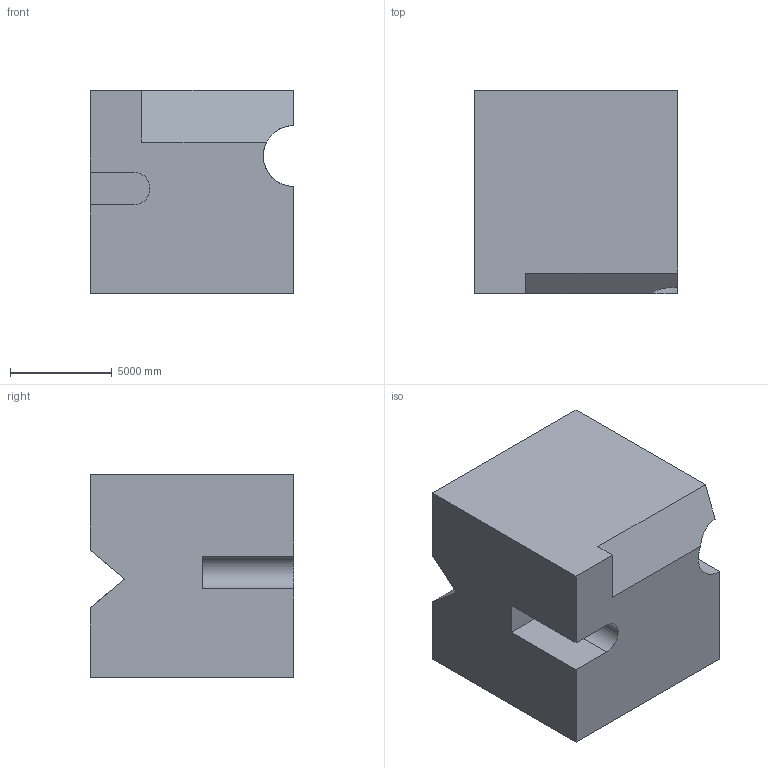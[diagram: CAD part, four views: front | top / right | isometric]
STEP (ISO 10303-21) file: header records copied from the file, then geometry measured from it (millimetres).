
FILE_DESCRIPTION (( 'STEP AP203' ), '1' );
FILE_NAME ('416.STEP', '2022-07-29T11:11:37', ( 'user' ), ( '' ), 'SwSTEP 2.0', 'SolidWorks 2021', '' );
FILE_SCHEMA (( 'CONFIG_CONTROL_DESIGN' ));
Length unit declared in the file: centimetre
Products named in the file (1): 416
Bounding box: 10000 x 10000 x 10000 mm (x, y, z)
Volume: 903358249667.8 mm3; surface area: 641034368.2 mm2
Topology: 1 solids, 1 shells, 21 faces, 57 edges, 38 vertices
Faces by surface type: plane 17, cylinder 4
Entity records: 735 total; most frequent: CARTESIAN_POINT 126, ORIENTED_EDGE 114, DIRECTION 105, EDGE_CURVE 57, VECTOR 47, LINE 47, VERTEX_POINT 38, AXIS2_PLACEMENT_3D 29
